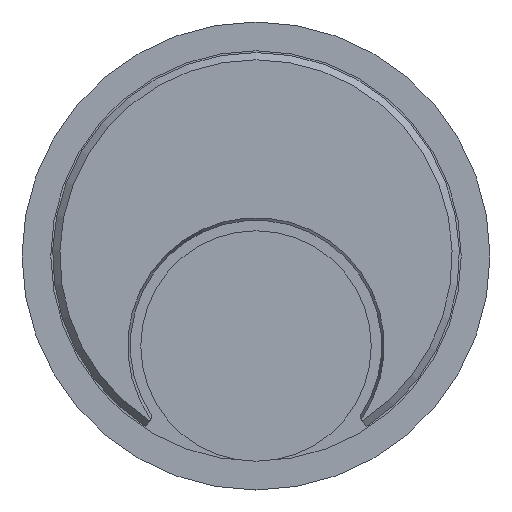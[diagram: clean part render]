
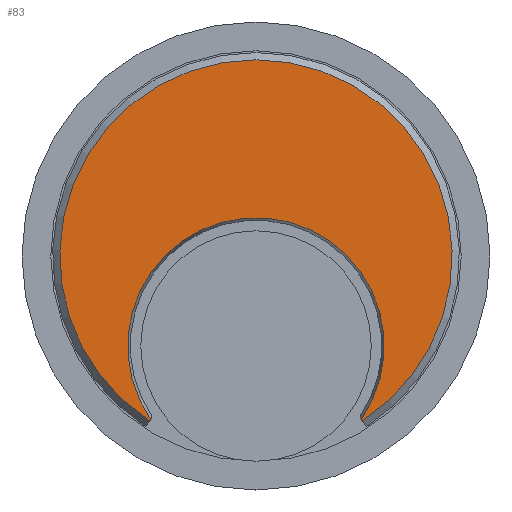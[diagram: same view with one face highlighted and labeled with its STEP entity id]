
A CAD part, left-side view. The second image highlights one B-rep face of the part: STEP entity #83.
In plain terms, the highlighted planar face has unit normal (-1, 0, 0).
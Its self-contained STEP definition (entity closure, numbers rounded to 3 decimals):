
#83 = ADVANCED_FACE( '', ( #112 ), #113, .F. );
#112 = FACE_OUTER_BOUND( '', #155, .T. );
#113 = PLANE( '', #156 );
#155 = EDGE_LOOP( '', ( #233, #234, #235, #236 ) );
#156 = AXIS2_PLACEMENT_3D( '', #237, #238, #239 );
#233 = ORIENTED_EDGE( '', *, *, #303, .T. );
#234 = ORIENTED_EDGE( '', *, *, #298, .T. );
#235 = ORIENTED_EDGE( '', *, *, #304, .T. );
#236 = ORIENTED_EDGE( '', *, *, #302, .T. );
#237 = CARTESIAN_POINT( '', ( -21.95, -2.825, 0. ) );
#238 = DIRECTION( '', ( 1., 0., 0. ) );
#239 = DIRECTION( '', ( 0., 1., 0. ) );
#298 = EDGE_CURVE( '', #338, #336, #339, .T. );
#302 = EDGE_CURVE( '', #341, #343, #345, .F. );
#303 = EDGE_CURVE( '', #343, #338, #346, .T. );
#304 = EDGE_CURVE( '', #336, #341, #347, .T. );
#336 = VERTEX_POINT( '', #395 );
#338 = VERTEX_POINT( '', #400 );
#339 = CIRCLE( '', #401, 1.782 );
#341 = VERTEX_POINT( '', #406 );
#343 = VERTEX_POINT( '', #411 );
#345 = CIRCLE( '', #416, 2.725 );
#346 = LINE( '', #417, #418 );
#347 = LINE( '', #419, #420 );
#395 = CARTESIAN_POINT( '', ( -21.95, -1.463, -2.268 ) );
#400 = CARTESIAN_POINT( '', ( -21.95, 1.463, -2.268 ) );
#401 = AXIS2_PLACEMENT_3D( '', #456, #457, #458 );
#406 = CARTESIAN_POINT( '', ( -21.95, -1.478, -2.29 ) );
#411 = CARTESIAN_POINT( '', ( -21.95, 1.478, -2.29 ) );
#416 = AXIS2_PLACEMENT_3D( '', #459, #460, #461 );
#417 = CARTESIAN_POINT( '', ( -21.95, 1.45, -2.25 ) );
#418 = VECTOR( '', #462, 1000. );
#419 = CARTESIAN_POINT( '', ( -21.95, -1.45, -2.25 ) );
#420 = VECTOR( '', #463, 1000. );
#456 = CARTESIAN_POINT( '', ( -21.95, 0., -1.25 ) );
#457 = DIRECTION( '', ( 1., 0., 0. ) );
#458 = DIRECTION( '', ( 0., 1., 0. ) );
#459 = CARTESIAN_POINT( '', ( -21.95, 0., 0. ) );
#460 = DIRECTION( '', ( 1., 0., 0. ) );
#461 = DIRECTION( '', ( 0., 1., 0. ) );
#462 = DIRECTION( '', ( 0., -0.574, 0.819 ) );
#463 = DIRECTION( '', ( 0., -0.574, -0.819 ) );
